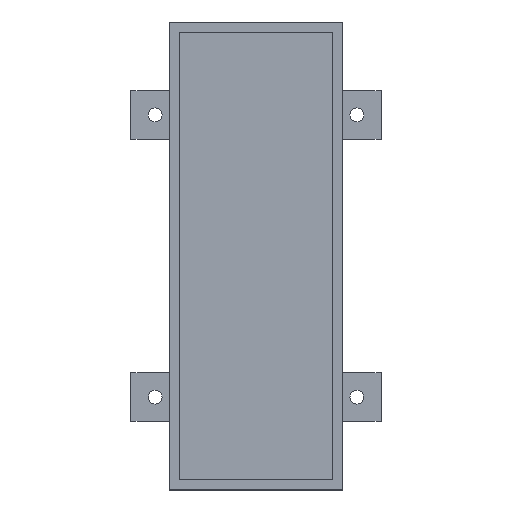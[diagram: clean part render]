
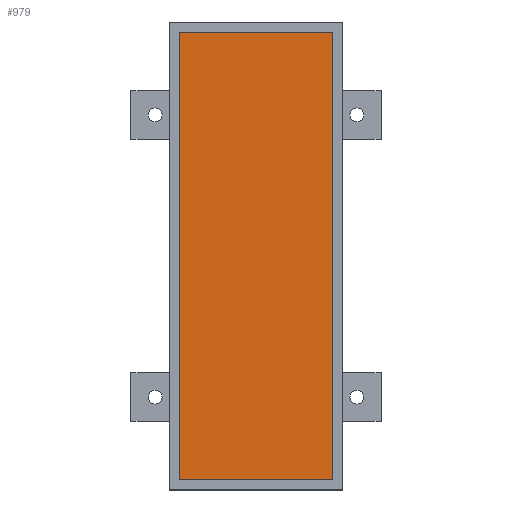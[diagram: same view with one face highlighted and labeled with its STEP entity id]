
A CAD part, top view. The second image highlights one B-rep face of the part: STEP entity #979.
In plain terms, the highlighted planar face has unit normal (0, 0, 1).
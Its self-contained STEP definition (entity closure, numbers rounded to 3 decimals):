
#858 = VERTEX_POINT('',#859);
#859 = CARTESIAN_POINT('',(19.,-55.5,24.));
#865 = EDGE_CURVE('',#866,#858,#868,.T.);
#866 = VERTEX_POINT('',#867);
#867 = CARTESIAN_POINT('',(-19.,-55.5,24.));
#868 = LINE('',#869,#870);
#869 = CARTESIAN_POINT('',(-19.,-55.5,24.));
#870 = VECTOR('',#871,1.);
#871 = DIRECTION('',(1.,0.,0.));
#889 = EDGE_CURVE('',#858,#890,#892,.T.);
#890 = VERTEX_POINT('',#891);
#891 = CARTESIAN_POINT('',(19.,55.5,24.));
#892 = LINE('',#893,#894);
#893 = CARTESIAN_POINT('',(19.,-55.5,24.));
#894 = VECTOR('',#895,1.);
#895 = DIRECTION('',(0.,1.,0.));
#913 = EDGE_CURVE('',#914,#890,#916,.T.);
#914 = VERTEX_POINT('',#915);
#915 = CARTESIAN_POINT('',(-19.,55.5,24.));
#916 = LINE('',#917,#918);
#917 = CARTESIAN_POINT('',(-19.,55.5,24.));
#918 = VECTOR('',#919,1.);
#919 = DIRECTION('',(1.,0.,0.));
#937 = EDGE_CURVE('',#866,#914,#938,.T.);
#938 = LINE('',#939,#940);
#939 = CARTESIAN_POINT('',(-19.,-55.5,24.));
#940 = VECTOR('',#941,1.);
#941 = DIRECTION('',(0.,1.,0.));
#979 = ADVANCED_FACE('',(#980),#986,.T.);
#980 = FACE_BOUND('',#981,.T.);
#981 = EDGE_LOOP('',(#982,#983,#984,#985));
#982 = ORIENTED_EDGE('',*,*,#937,.F.);
#983 = ORIENTED_EDGE('',*,*,#865,.T.);
#984 = ORIENTED_EDGE('',*,*,#889,.T.);
#985 = ORIENTED_EDGE('',*,*,#913,.F.);
#986 = PLANE('',#987);
#987 = AXIS2_PLACEMENT_3D('',#988,#989,#990);
#988 = CARTESIAN_POINT('',(-19.,-55.5,24.));
#989 = DIRECTION('',(0.,0.,1.));
#990 = DIRECTION('',(1.,0.,0.));
